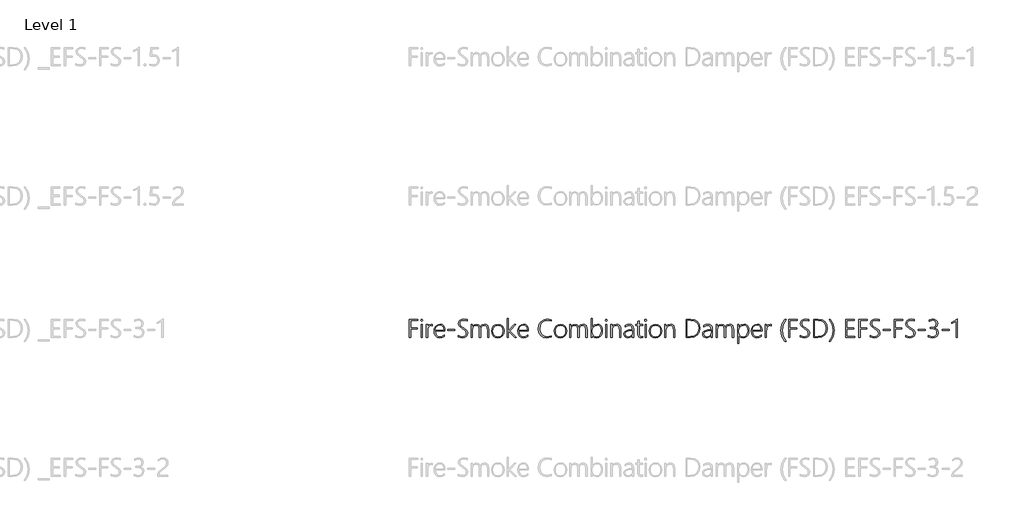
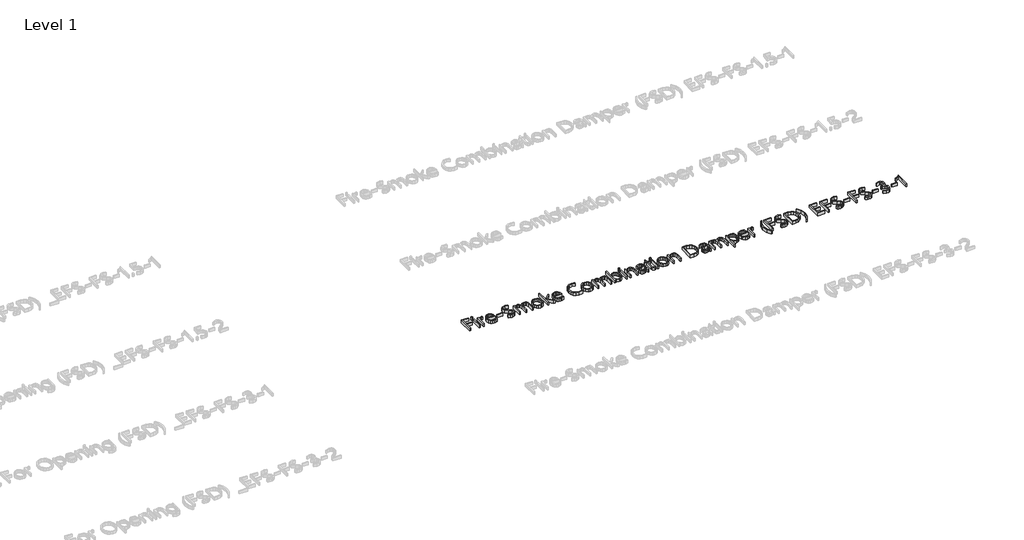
# One storey, part 8 of 13: 1 proxy.
"""IFC4 building model written with IfcOpenShell, lengths in millimetres."""

from ifc_helpers import new_model, si_unit, origin, origin_with_axes, place, context, project, spatial, polyline, outline, extrude, element, save

model = new_model("IFC4")

# Units and contexts
model_context = context("Model", 3, world=origin())
ifc_project = project(units=[si_unit("LENGTHUNIT", "METRE", prefix="MILLI")], contexts=[model_context])

# Site, building, storey
site = spatial("IfcSite", under=ifc_project)
building = spatial("IfcBuilding", under=site)
storey = spatial("IfcBuildingStorey", under=building, Name="Level 1", Elevation=0.0)

# Proxy
placement = place(None, origin())
element("IfcBuildingElementProxy", 1, Name="24\" Arial", ObjectType="24\" Arial", at=placement, inside=storey, context=model_context, shape_type="SweptSolid", body=[
    extrude(outline(polyline([(-11432.1552252, 4818.5856578), (-11432.1552252, 4777.7920223), (-11395.1999406, 4777.7920223), (-11395.1999406, 4771.5137896), (-11432.1552252, 4771.5137896), (-11432.1552252, 4724.9179959), (-11439.0583058, 4724.9179959), (-11439.0583058, 4824.9233999), (-11392.3137388, 4824.9233999), (-11392.3137388, 4818.5856578), (-11432.1552252, 4818.5856578)])), origin_with_axes(), (0.0, 0.0, 1.0), 20.0),
    extrude(outline(polyline([(-11370.6523481, 4814.3307418), (-11374.3419256, 4815.8631067), (-11375.9486771, 4819.7758441), (-11374.312171, 4823.4951763), (-11370.6523481, 4824.9233999), (-11366.8437519, 4823.524931), (-11365.2072458, 4819.7758441), (-11366.8139973, 4815.9374933), (-11370.6523481, 4814.3307418)])), origin_with_axes(), (0.0, 0.0, 1.0), 20.0),
    extrude(outline(polyline([(-11373.8063418, 4724.9179959), (-11373.8063418, 4796.329174), (-11367.3793358, 4796.329174), (-11367.3793358, 4724.9179959), (-11373.8063418, 4724.9179959)])), origin_with_axes(), (0.0, 0.0, 1.0), 20.0),
    extrude(outline(polyline([(-11311.5595982, 4789.634376), (-11319.0875266, 4791.9254847), (-11326.8348955, 4789.745956), (-11333.2358662, 4783.20737), (-11337.5316949, 4772.6593439), (-11338.9636378, 4758.4514949), (-11338.9636378, 4724.9179959), (-11345.2418706, 4724.9179959), (-11345.2418706, 4796.329174), (-11338.9636378, 4796.329174), (-11338.9636378, 4780.4996962), (-11330.9298803, 4793.1900576), (-11318.6709614, 4797.7276429), (-11311.5595982, 4796.4779473), (-11311.5595982, 4789.634376)])), origin_with_axes(), (0.0, 0.0, 1.0), 20.0),
    extrude(outline(polyline([(-11296.0871763, 4760.355793), (-11294.3874415, 4747.233989), (-11289.288237, 4737.3256881), (-11281.2284442, 4731.099526), (-11270.6469441, 4729.0241386), (-11258.7748357, 4731.2408606), (-11247.2002739, 4737.8910266), (-11247.2002739, 4731.0474553), (-11258.9384863, 4725.1337171), (-11271.956149, 4723.1624711), (-11284.4382279, 4725.6395463), (-11294.2721422, 4733.070772), (-11300.6545162, 4745.017267), (-11302.7819742, 4761.0401501), (-11300.5578136, 4775.4339657), (-11293.8853316, 4787.3730221), (-11283.6571681, 4795.4067796), (-11270.7659627, 4798.0846988), (-11259.0091537, 4795.7452388), (-11250.3393903, 4788.726859), (-11244.99471, 4777.6692844), (-11243.2131498, 4763.2122401), (-11243.2131498, 4760.355793), (-11296.0871763, 4760.355793)]), holes=[polyline([(-11249.9079478, 4766.2174605), (-11251.6188406, 4777.1671745), (-11255.8588793, 4785.37946), (-11262.4123426, 4790.5121384), (-11271.0635093, 4792.2230312), (-11280.2316631, 4790.5381738), (-11287.6814855, 4785.4836013), (-11293.0112886, 4777.2973511), (-11295.8193844, 4766.2174605), (-11249.9079478, 4766.2174605)])]), origin_with_axes(), (0.0, 0.0, 1.0), 20.0),
    extrude(outline(polyline([(-11226.5802963, 4763.6288053), (-11226.5802963, 4769.9070381), (-11188.4348253, 4769.9070381), (-11188.4348253, 4763.6288053), (-11226.5802963, 4763.6288053)])), origin_with_axes(), (0.0, 0.0, 1.0), 20.0),
    extrude(outline(polyline([(-11169.867919, 4728.4885548), (-11169.867919, 4736.3437844), (-11159.0595396, 4731.2334219), (-11148.1172643, 4729.5299678), (-11130.3239791, 4734.3650996), (-11125.7715165, 4740.1709772), (-11124.254029, 4747.9183462), (-11128.3452944, 4760.1623877), (-11146.0344383, 4772.6147119), (-11165.2708244, 4787.4474087), (-11169.3025805, 4801.2089378), (-11167.2457898, 4811.0019395), (-11161.0754177, 4819.1956283), (-11151.4758213, 4824.7411526), (-11139.1313577, 4826.5896607), (-11121.2785632, 4823.5844403), (-11121.2785632, 4816.3540585), (-11140.0239975, 4820.311428), (-11156.1658992, 4815.1489949), (-11160.6402558, 4809.2910467), (-11162.131708, 4802.0420682), (-11158.0553199, 4789.8426586), (-11140.4405627, 4777.4944758), (-11121.7843924, 4763.3758907), (-11117.1426658, 4749.1977964), (-11119.1399472, 4738.746473), (-11125.1317914, 4730.4226075), (-11134.7685811, 4724.9775052), (-11147.7006991, 4723.1624711), (-11159.5876848, 4724.7692226), (-11169.867919, 4728.4885548)])), origin_with_axes(), (0.0, 0.0, 1.0), 20.0),
    extrude(outline(polyline([(-11008.1216006, 4724.9179959), (-11008.1216006, 4767.8837214), (-11012.3467619, 4786.7779289), (-11017.7993029, 4790.8617557), (-11025.7066032, 4792.2230312), (-11033.5581134, 4790.4079971), (-11040.271508, 4784.9628948), (-11044.8797606, 4776.780364), (-11046.4158448, 4766.7530444), (-11046.4158448, 4724.9179959), (-11052.8428509, 4724.9179959), (-11052.8428509, 4768.3597959), (-11057.3729975, 4786.2572224), (-11063.0356807, 4790.731579), (-11070.9634373, 4792.2230312), (-11078.9488435, 4790.4005585), (-11085.4688329, 4784.9331401), (-11089.8092935, 4776.5720814), (-11091.2561137, 4766.0686873), (-11091.2561137, 4724.9179959), (-11097.6831198, 4724.9179959), (-11097.6831198, 4796.329174), (-11091.2561137, 4796.329174), (-11091.2561137, 4784.4868203), (-11081.7941327, 4794.6852292), (-11069.1484032, 4798.0846988), (-11055.8034393, 4793.5768682), (-11048.2903883, 4781.7493918), (-11038.7093885, 4793.7851508), (-11025.1412647, 4798.0846988), (-11014.8963642, 4796.2715243), (-11007.5785781, 4790.832001), (-11003.1879064, 4781.7661288), (-11001.7243492, 4769.0739077), (-11001.7243492, 4724.9179959), (-11008.1216006, 4724.9179959)])), origin_with_axes(), (0.0, 0.0, 1.0), 20.0),
    extrude(outline(polyline([(-10950.9331488, 4723.1624711), (-10964.9252765, 4725.736249), (-10975.6592692, 4733.4575826), (-10982.4879631, 4745.2924976), (-10984.7641944, 4760.2070197), (-10982.3838218, 4776.0625329), (-10975.242704, 4788.0425019), (-10964.2186034, 4795.5741495), (-10950.1892823, 4798.0846988), (-10936.5058592, 4795.5890269), (-10926.0433777, 4788.1020112), (-10919.4043698, 4776.2038675), (-10917.1913671, 4760.4748116), (-10919.4490018, 4745.3966389), (-10926.2219057, 4733.4873372), (-10936.9149857, 4725.7436876), (-10950.9331488, 4723.1624711)]), holes=[polyline([(-10950.4570742, 4792.2230312), (-10961.7935988, 4790.0955732), (-10970.5712227, 4783.7131992), (-10976.194853, 4773.544545), (-10978.0693964, 4760.0582464), (-10976.239485, 4747.4199556), (-10970.7497507, 4737.5339707), (-10962.0837067, 4731.1515966), (-10950.7248662, 4729.0241386), (-10939.3176743, 4731.1181226), (-10930.8636323, 4737.4000747), (-10925.6305319, 4747.3939203), (-10923.8861651, 4760.6235849), (-10925.6193739, 4774.1136028), (-10930.8190003, 4784.0553777), (-10939.1949364, 4790.1811179), (-10950.4570742, 4792.2230312)])]), origin_with_axes(), (0.0, 0.0, 1.0), 20.0),
    extrude(outline(polyline([(-10858.7532197, 4724.9179959), (-10892.9413212, 4760.2070197), (-10893.2091131, 4724.9179959), (-10899.6361192, 4724.9179959), (-10899.6361192, 4830.6362941), (-10893.2091131, 4830.6362941), (-10893.2091131, 4762.4981284), (-10860.5087445, 4796.329174), (-10852.207195, 4796.329174), (-10886.09775, 4761.7542619), (-10849.4697665, 4724.9179959), (-10858.7532197, 4724.9179959)])), origin_with_axes(), (0.0, 0.0, 1.0), 20.0),
    extrude(outline(polyline([(-10835.2470402, 4760.355793), (-10833.5473054, 4747.233989), (-10828.448101, 4737.3256881), (-10820.3883081, 4731.099526), (-10809.806808, 4729.0241386), (-10797.9346997, 4731.2408606), (-10786.3601379, 4737.8910266), (-10786.3601379, 4731.0474553), (-10798.0983503, 4725.1337171), (-10811.116013, 4723.1624711), (-10823.5980918, 4725.6395463), (-10833.4320061, 4733.070772), (-10839.8143802, 4745.017267), (-10841.9418382, 4761.0401501), (-10839.7176775, 4775.4339657), (-10833.0451956, 4787.3730221), (-10822.817032, 4795.4067796), (-10809.9258267, 4798.0846988), (-10798.1690176, 4795.7452388), (-10789.4992543, 4788.726859), (-10784.1545739, 4777.6692844), (-10782.3730138, 4763.2122401), (-10782.3730138, 4760.355793), (-10835.2470402, 4760.355793)]), holes=[polyline([(-10789.0678117, 4766.2174605), (-10790.7787045, 4777.1671745), (-10795.0187432, 4785.37946), (-10801.5722066, 4790.5121384), (-10810.2233732, 4792.2230312), (-10819.3915271, 4790.5381738), (-10826.8413495, 4785.4836013), (-10832.1711525, 4777.2973511), (-10834.9792483, 4766.2174605), (-10789.0678117, 4766.2174605)])]), origin_with_axes(), (0.0, 0.0, 1.0), 20.0),
    extrude(outline(polyline([(-10656.5703217, 4728.1910082), (-10681.8915352, 4723.1624711), (-10700.5030735, 4726.6065727), (-10715.3357703, 4736.9388775), (-10725.0432274, 4752.820426), (-10728.2790464, 4772.9122585), (-10724.7717161, 4794.8154058), (-10714.2497253, 4811.9057372), (-10698.3272642, 4822.9186798), (-10678.6185229, 4826.5896607), (-10656.5703217, 4822.9000832), (-10656.5703217, 4815.5804374), (-10678.7375415, 4820.311428), (-10695.8092763, 4817.1202409), (-10709.3550842, 4807.5466799), (-10718.1922175, 4792.6767898), (-10721.1379285, 4773.5966156), (-10718.3223941, 4755.3123786), (-10709.8757907, 4741.3425668), (-10697.1073232, 4732.4831176), (-10681.3261968, 4729.5299678), (-10656.5703217, 4734.8858062), (-10656.5703217, 4728.1910082)])), origin_with_axes(), (0.0, 0.0, 1.0), 20.0),
    extrude(outline(polyline([(-10606.2551958, 4723.1624711), (-10620.2473235, 4725.736249), (-10630.9813162, 4733.4575826), (-10637.8100101, 4745.2924976), (-10640.0862414, 4760.2070197), (-10637.7058688, 4776.0625329), (-10630.564751, 4788.0425019), (-10619.5406504, 4795.5741495), (-10605.5113293, 4798.0846988), (-10591.8279062, 4795.5890269), (-10581.3654247, 4788.1020112), (-10574.7264168, 4776.2038675), (-10572.5134141, 4760.4748116), (-10574.7710488, 4745.3966389), (-10581.5439527, 4733.4873372), (-10592.2370327, 4725.7436876), (-10606.2551958, 4723.1624711)]), holes=[polyline([(-10605.7791212, 4792.2230312), (-10617.1156458, 4790.0955732), (-10625.8932697, 4783.7131992), (-10631.5169, 4773.544545), (-10633.3914434, 4760.0582464), (-10631.561532, 4747.4199556), (-10626.0717977, 4737.5339707), (-10617.4057537, 4731.1515966), (-10606.0469132, 4729.0241386), (-10594.6397213, 4731.1181226), (-10586.1856793, 4737.4000747), (-10580.9525789, 4747.3939203), (-10579.2082121, 4760.6235849), (-10580.9414209, 4774.1136028), (-10586.1410473, 4784.0553777), (-10594.5169834, 4790.1811179), (-10605.7791212, 4792.2230312)])]), origin_with_axes(), (0.0, 0.0, 1.0), 20.0),
    extrude(outline(polyline([(-10465.396647, 4724.9179959), (-10465.396647, 4767.8837214), (-10469.6218083, 4786.7779289), (-10475.0743493, 4790.8617557), (-10482.9816496, 4792.2230312), (-10490.8331598, 4790.4079971), (-10497.5465544, 4784.9628948), (-10502.154807, 4776.780364), (-10503.6908912, 4766.7530444), (-10503.6908912, 4724.9179959), (-10510.1178972, 4724.9179959), (-10510.1178972, 4768.3597959), (-10514.6480439, 4786.2572224), (-10520.3107271, 4790.731579), (-10528.2384837, 4792.2230312), (-10536.2238899, 4790.4005585), (-10542.7438792, 4784.9331401), (-10547.0843399, 4776.5720814), (-10548.5311601, 4766.0686873), (-10548.5311601, 4724.9179959), (-10554.9581662, 4724.9179959), (-10554.9581662, 4796.329174), (-10548.5311601, 4796.329174), (-10548.5311601, 4784.4868203), (-10539.069179, 4794.6852292), (-10526.4234496, 4798.0846988), (-10513.0784857, 4793.5768682), (-10505.5654346, 4781.7493918), (-10495.9844349, 4793.7851508), (-10482.4163111, 4798.0846988), (-10472.1714105, 4796.2715243), (-10464.8536245, 4790.832001), (-10460.4629528, 4781.7661288), (-10458.9993956, 4769.0739077), (-10458.9993956, 4724.9179959), (-10465.396647, 4724.9179959)])), origin_with_axes(), (0.0, 0.0, 1.0), 20.0),
    extrude(outline(polyline([(-10430.1968871, 4737.6232346), (-10430.464679, 4724.9179959), (-10436.891685, 4724.9179959), (-10436.891685, 4830.6362941), (-10430.464679, 4830.6362941), (-10430.464679, 4781.6006185), (-10419.2025411, 4793.7851508), (-10403.4772046, 4798.0846988), (-10391.3707783, 4795.7378002), (-10382.2472564, 4788.6971043), (-10376.5232042, 4777.632091), (-10374.6151868, 4763.2122401), (-10376.8281894, 4746.9922324), (-10383.4671974, 4734.2163264), (-10393.6470096, 4725.9259349), (-10406.482425, 4723.1624711), (-10420.4299207, 4726.777662), (-10430.1968871, 4737.6232346)]), holes=[polyline([(-10430.464679, 4764.1941438), (-10430.464679, 4755.1784826), (-10428.7723828, 4745.195795), (-10423.6954944, 4736.7305949), (-10415.8663001, 4730.9507527), (-10405.9170865, 4729.0241386), (-10395.9976276, 4731.3710372), (-10388.1386786, 4738.4117331), (-10383.0171582, 4749.2684637), (-10381.3099847, 4763.0634668), (-10382.8795429, 4775.0769098), (-10387.5882175, 4784.338047), (-10394.9078632, 4790.2517852), (-10404.310335, 4792.2230312), (-10415.3902256, 4790.1290472), (-10423.6359851, 4783.8470951), (-10428.7575055, 4774.7458893), (-10430.464679, 4764.1941438)])]), origin_with_axes(), (0.0, 0.0, 1.0), 20.0),
    extrude(outline(polyline([(-10356.9111655, 4724.9179959), (-10356.9111655, 4796.329174), (-10350.4841595, 4796.329174), (-10350.4841595, 4724.9179959), (-10356.9111655, 4724.9179959)])), origin_with_axes(), (0.0, 0.0, 1.0), 20.0),
    extrude(outline(polyline([(-10353.7571718, 4814.3307418), (-10357.4467494, 4815.8631067), (-10359.0535009, 4819.7758441), (-10357.4169947, 4823.4951763), (-10353.7571718, 4824.9233999), (-10349.9485757, 4823.524931), (-10348.3120695, 4819.7758441), (-10349.918821, 4815.9374933), (-10353.7571718, 4814.3307418)])), origin_with_axes(), (0.0, 0.0, 1.0), 20.0),
    extrude(outline(polyline([(-10279.7870932, 4724.9179959), (-10279.7870932, 4766.4852525), (-10284.4288198, 4785.7885865), (-10290.230978, 4790.6144201), (-10298.3539995, 4792.2230312), (-10307.7527519, 4790.3298912), (-10315.299277, 4784.6504709), (-10320.2645854, 4776.1815515), (-10321.9196883, 4765.919914), (-10321.9196883, 4724.9179959), (-10328.3466943, 4724.9179959), (-10328.3466943, 4796.329174), (-10321.9196883, 4796.329174), (-10321.9196883, 4783.3561433), (-10311.6320154, 4794.4025599), (-10297.2233225, 4798.0846988), (-10287.0100363, 4796.1580847), (-10279.5193013, 4790.3782425), (-10274.9222067, 4781.0204027), (-10273.3898418, 4768.3597959), (-10273.3898418, 4724.9179959), (-10279.7870932, 4724.9179959)])), origin_with_axes(), (0.0, 0.0, 1.0), 20.0),
    extrude(outline(polyline([(-10209.4768374, 4724.9179959), (-10209.4768374, 4739.2002315), (-10219.6975623, 4727.5215284), (-10234.1732032, 4723.1624711), (-10243.2892864, 4724.594414), (-10250.2853502, 4728.8902427), (-10254.7373909, 4735.3656), (-10256.2214044, 4743.3361289), (-10254.6741622, 4751.7548373), (-10250.0324356, 4758.3250376), (-10231.4655293, 4765.919914), (-10209.4768374, 4769.1929263), (-10213.7987014, 4786.465505), (-10219.2010314, 4790.7836497), (-10226.7642934, 4792.2230312), (-10238.4132419, 4789.8500973), (-10249.7348891, 4782.7312955), (-10249.7348891, 4790.4675064), (-10238.9488257, 4795.8530995), (-10226.1394456, 4798.0846988), (-10216.3761986, 4796.373806), (-10209.1049042, 4791.2411275), (-10204.5859156, 4782.8503141), (-10203.079586, 4771.3650163), (-10203.079586, 4724.9179959), (-10209.4768374, 4724.9179959)]), holes=[polyline([(-10229.144666, 4760.4748116), (-10244.9146345, 4755.2826239), (-10249.4373425, 4743.6039208), (-10245.2270584, 4733.1451587), (-10233.4590914, 4729.0241386), (-10224.0268649, 4730.9358754), (-10216.3204086, 4736.6710856), (-10211.1877302, 4745.4189549), (-10209.4768374, 4756.3686689), (-10209.4768374, 4763.3312588), (-10229.144666, 4760.4748116)])]), origin_with_axes(), (0.0, 0.0, 1.0), 20.0),
    extrude(outline(polyline([(-10153.4488173, 4725.8998996), (-10162.8810437, 4723.519527), (-10174.7531521, 4728.2653948), (-10178.7105215, 4742.5029985), (-10178.7105215, 4790.4675064), (-10191.5347789, 4790.4675064), (-10191.5347789, 4796.329174), (-10178.7105215, 4796.329174), (-10178.7105215, 4814.8663256), (-10175.4970185, 4815.9970026), (-10172.2835155, 4817.0384156), (-10172.2835155, 4796.329174), (-10153.4488173, 4796.329174), (-10153.4488173, 4790.4675064), (-10172.2835155, 4790.4675064), (-10172.2835155, 4743.3361289), (-10169.9477749, 4732.6244522), (-10162.0479133, 4729.3216852), (-10153.4488173, 4731.8805857), (-10153.4488173, 4725.8998996)])), origin_with_axes(), (0.0, 0.0, 1.0), 20.0),
    extrude(outline(polyline([(-10136.6671904, 4814.3307418), (-10140.3567679, 4815.8631067), (-10141.9635194, 4819.7758441), (-10140.3270133, 4823.4951763), (-10136.6671904, 4824.9233999), (-10132.8585942, 4823.524931), (-10131.2220881, 4819.7758441), (-10132.8288396, 4815.9374933), (-10136.6671904, 4814.3307418)])), origin_with_axes(), (0.0, 0.0, 1.0), 20.0),
    extrude(outline(polyline([(-10139.8211841, 4724.9179959), (-10139.8211841, 4796.329174), (-10133.3941781, 4796.329174), (-10133.3941781, 4724.9179959), (-10139.8211841, 4724.9179959)])), origin_with_axes(), (0.0, 0.0, 1.0), 20.0),
    extrude(outline(polyline([(-10082.573223, 4723.1624711), (-10096.5653507, 4725.736249), (-10107.2993434, 4733.4575826), (-10114.1280373, 4745.2924976), (-10116.4042686, 4760.2070197), (-10114.023896, 4776.0625329), (-10106.8827782, 4788.0425019), (-10095.8586776, 4795.5741495), (-10081.8293565, 4798.0846988), (-10068.1459334, 4795.5890269), (-10057.6834519, 4788.1020112), (-10051.044444, 4776.2038675), (-10048.8314413, 4760.4748116), (-10051.089076, 4745.3966389), (-10057.8619799, 4733.4873372), (-10068.5550599, 4725.7436876), (-10082.573223, 4723.1624711)]), holes=[polyline([(-10082.0971485, 4792.2230312), (-10093.433673, 4790.0955732), (-10102.211297, 4783.7131992), (-10107.8349272, 4773.544545), (-10109.7094707, 4760.0582464), (-10107.8795592, 4747.4199556), (-10102.3898249, 4737.5339707), (-10093.7237809, 4731.1515966), (-10082.3649404, 4729.0241386), (-10070.9577485, 4731.1181226), (-10062.5037065, 4737.4000747), (-10057.2706061, 4747.3939203), (-10055.5262393, 4760.6235849), (-10057.2594481, 4774.1136028), (-10062.4590745, 4784.0553777), (-10070.8350106, 4790.1811179), (-10082.0971485, 4792.2230312)])]), origin_with_axes(), (0.0, 0.0, 1.0), 20.0),
    extrude(outline(polyline([(-9982.7165923, 4724.9179959), (-9982.7165923, 4766.4852525), (-9987.3583188, 4785.7885865), (-9993.1604771, 4790.6144201), (-10001.2834986, 4792.2230312), (-10010.682251, 4790.3298912), (-10018.228776, 4784.6504709), (-10023.1940845, 4776.1815515), (-10024.8491873, 4765.919914), (-10024.8491873, 4724.9179959), (-10031.2761934, 4724.9179959), (-10031.2761934, 4796.329174), (-10024.8491873, 4796.329174), (-10024.8491873, 4783.3561433), (-10014.5615145, 4794.4025599), (-10000.1528216, 4798.0846988), (-9989.9395354, 4796.1580847), (-9982.4488003, 4790.3782425), (-9977.8517058, 4781.0204027), (-9976.3193409, 4768.3597959), (-9976.3193409, 4724.9179959), (-9982.7165923, 4724.9179959)])), origin_with_axes(), (0.0, 0.0, 1.0), 20.0),
    extrude(outline(polyline([(-9913.7155414, 4724.9179959), (-9913.7155414, 4824.9233999), (-9888.6621198, 4824.9233999), (-9866.7626918, 4821.8214768), (-9850.8141954, 4812.5157077), (-9841.0844223, 4797.259007), (-9837.8411647, 4776.3042895), (-9841.3187403, 4755.5987671), (-9851.7514671, 4739.1853542), (-9868.3062147, 4728.4848354), (-9890.1498526, 4724.9179959), (-9913.7155414, 4724.9179959)]), holes=[polyline([(-9906.8124609, 4818.5856578), (-9906.8124609, 4731.1962286), (-9891.1020017, 4731.1962286), (-9871.4490504, 4734.0824304), (-9856.9436548, 4742.7410357), (-9847.9949416, 4756.8373048), (-9845.0120371, 4776.0364975), (-9847.8052556, 4794.6517552), (-9856.184911, 4807.9483678), (-9870.1510034, 4815.9263353), (-9889.7035328, 4818.5856578), (-9906.8124609, 4818.5856578)])]), origin_with_axes(), (0.0, 0.0, 1.0), 20.0),
    extrude(outline(polyline([(-9775.2968745, 4724.9179959), (-9775.2968745, 4739.2002315), (-9785.5175994, 4727.5215284), (-9799.9932403, 4723.1624711), (-9809.1093235, 4724.594414), (-9816.1053873, 4728.8902427), (-9820.557428, 4735.3656), (-9822.0414415, 4743.3361289), (-9820.4941993, 4751.7548373), (-9815.8524727, 4758.3250376), (-9797.2855664, 4765.919914), (-9775.2968745, 4769.1929263), (-9779.6187385, 4786.465505), (-9785.0210685, 4790.7836497), (-9792.5843305, 4792.2230312), (-9804.233279, 4789.8500973), (-9815.5549262, 4782.7312955), (-9815.5549262, 4790.4675064), (-9804.7688628, 4795.8530995), (-9791.9594827, 4798.0846988), (-9782.1962357, 4796.373806), (-9774.9249413, 4791.2411275), (-9770.4059527, 4782.8503141), (-9768.8996231, 4771.3650163), (-9768.8996231, 4724.9179959), (-9775.2968745, 4724.9179959)]), holes=[polyline([(-9794.9647032, 4760.4748116), (-9810.7346716, 4755.2826239), (-9815.2573796, 4743.6039208), (-9811.0470956, 4733.1451587), (-9799.2791285, 4729.0241386), (-9789.8469021, 4730.9358754), (-9782.1404457, 4736.6710856), (-9777.0077673, 4745.4189549), (-9775.2968745, 4756.3686689), (-9775.2968745, 4763.3312588), (-9794.9647032, 4760.4748116)])]), origin_with_axes(), (0.0, 0.0, 1.0), 20.0),
    extrude(outline(polyline([(-9657.9742598, 4724.9179959), (-9657.9742598, 4767.8837214), (-9662.1994212, 4786.7779289), (-9667.6519622, 4790.8617557), (-9675.5592624, 4792.2230312), (-9683.4107727, 4790.4079971), (-9690.1241673, 4784.9628948), (-9694.7324199, 4776.780364), (-9696.2685041, 4766.7530444), (-9696.2685041, 4724.9179959), (-9702.6955101, 4724.9179959), (-9702.6955101, 4768.3597959), (-9707.2256567, 4786.2572224), (-9712.88834, 4790.731579), (-9720.8160965, 4792.2230312), (-9728.8015028, 4790.4005585), (-9735.3214921, 4784.9331401), (-9739.6619528, 4776.5720814), (-9741.108773, 4766.0686873), (-9741.108773, 4724.9179959), (-9747.535779, 4724.9179959), (-9747.535779, 4796.329174), (-9741.108773, 4796.329174), (-9741.108773, 4784.4868203), (-9731.6467919, 4794.6852292), (-9719.0010624, 4798.0846988), (-9705.6560985, 4793.5768682), (-9698.1430475, 4781.7493918), (-9688.5620478, 4793.7851508), (-9674.9939239, 4798.0846988), (-9664.7490234, 4796.2715243), (-9657.4312373, 4790.832001), (-9653.0405657, 4781.7661288), (-9651.5770084, 4769.0739077), (-9651.5770084, 4724.9179959), (-9657.9742598, 4724.9179959)])), origin_with_axes(), (0.0, 0.0, 1.0), 20.0),
    extrude(outline(polyline([(-9622.7744999, 4737.6232346), (-9623.0422919, 4692.0688539), (-9629.4692979, 4692.0688539), (-9629.4692979, 4796.329174), (-9623.0422919, 4796.329174), (-9623.0422919, 4781.6006185), (-9611.780154, 4793.7851508), (-9596.0548175, 4798.0846988), (-9583.9483912, 4795.7378002), (-9574.8248693, 4788.6971043), (-9569.1008171, 4777.632091), (-9567.1927996, 4763.2122401), (-9569.379767, 4746.9922324), (-9575.940669, 4734.2163264), (-9586.0944459, 4725.9259349), (-9599.0600379, 4723.1624711), (-9613.0075336, 4726.777662), (-9622.7744999, 4737.6232346)]), holes=[polyline([(-9623.0422919, 4764.1941438), (-9623.0422919, 4755.1784826), (-9621.3499957, 4745.195795), (-9616.2731073, 4736.7305949), (-9608.443913, 4730.9507527), (-9598.4946994, 4729.0241386), (-9588.5752404, 4731.3710372), (-9580.7162915, 4738.4117331), (-9575.5947711, 4749.2684637), (-9573.8875976, 4763.0634668), (-9575.4571558, 4775.0769098), (-9580.1658303, 4784.338047), (-9587.4854761, 4790.2517852), (-9596.8879479, 4792.2230312), (-9607.9678385, 4790.1290472), (-9616.213598, 4783.8470951), (-9621.3351184, 4774.7458893), (-9623.0422919, 4764.1941438)])]), origin_with_axes(), (0.0, 0.0, 1.0), 20.0),
    extrude(outline(polyline([(-9547.9415362, 4760.355793), (-9546.2418014, 4747.233989), (-9541.142597, 4737.3256881), (-9533.0828041, 4731.099526), (-9522.501304, 4729.0241386), (-9510.6291957, 4731.2408606), (-9499.0546339, 4737.8910266), (-9499.0546339, 4731.0474553), (-9510.7928463, 4725.1337171), (-9523.8105089, 4723.1624711), (-9536.2925878, 4725.6395463), (-9546.1265021, 4733.070772), (-9552.5088761, 4745.017267), (-9554.6363342, 4761.0401501), (-9552.4121735, 4775.4339657), (-9545.7396916, 4787.3730221), (-9535.511528, 4795.4067796), (-9522.6203226, 4798.0846988), (-9510.8635136, 4795.7452388), (-9502.1937502, 4788.726859), (-9496.8490699, 4777.6692844), (-9495.0675098, 4763.2122401), (-9495.0675098, 4760.355793), (-9547.9415362, 4760.355793)]), holes=[polyline([(-9501.7623077, 4766.2174605), (-9503.4732005, 4777.1671745), (-9507.7132392, 4785.37946), (-9514.2667025, 4790.5121384), (-9522.9178692, 4792.2230312), (-9532.0860231, 4790.5381738), (-9539.5358455, 4785.4836013), (-9544.8656485, 4777.2973511), (-9547.6737443, 4766.2174605), (-9501.7623077, 4766.2174605)])]), origin_with_axes(), (0.0, 0.0, 1.0), 20.0),
    extrude(outline(polyline([(-9443.4431789, 4789.634376), (-9450.9711073, 4791.9254847), (-9458.7184762, 4789.745956), (-9465.1194469, 4783.20737), (-9469.4152756, 4772.6593439), (-9470.8472185, 4758.4514949), (-9470.8472185, 4724.9179959), (-9477.1254513, 4724.9179959), (-9477.1254513, 4796.329174), (-9470.8472185, 4796.329174), (-9470.8472185, 4780.4996962), (-9462.813461, 4793.1900576), (-9450.5545421, 4797.7276429), (-9443.4431789, 4796.4779473), (-9443.4431789, 4789.634376)])), origin_with_axes(), (0.0, 0.0, 1.0), 20.0),
    extrude(outline(polyline([(-9369.3540816, 4702.1854375), (-9385.1984368, 4729.7159344), (-9390.4798885, 4762.9146936), (-9385.1314888, 4797.2515684), (-9369.0862897, 4824.9233999), (-9362.2427185, 4824.9233999), (-9378.6226575, 4796.9019511), (-9384.0826371, 4763.0634668), (-9378.6970441, 4730.5118715), (-9362.5402651, 4702.1854375), (-9369.3540816, 4702.1854375)])), origin_with_axes(), (0.0, 0.0, 1.0), 20.0),
    extrude(outline(polyline([(-9341.2359302, 4818.5856578), (-9341.2359302, 4777.7920223), (-9304.2806456, 4777.7920223), (-9304.2806456, 4771.5137896), (-9341.2359302, 4771.5137896), (-9341.2359302, 4724.9179959), (-9348.1390108, 4724.9179959), (-9348.1390108, 4824.9233999), (-9301.3944438, 4824.9233999), (-9301.3944438, 4818.5856578), (-9341.2359302, 4818.5856578)])), origin_with_axes(), (0.0, 0.0, 1.0), 20.0),
    extrude(outline(polyline([(-9284.6128169, 4728.4885548), (-9284.6128169, 4736.3437844), (-9273.8044376, 4731.2334219), (-9262.8621623, 4729.5299678), (-9245.0688771, 4734.3650996), (-9240.5164145, 4740.1709772), (-9238.9989269, 4747.9183462), (-9243.0901923, 4760.1623877), (-9260.7793362, 4772.6147119), (-9280.0157224, 4787.4474087), (-9284.0474784, 4801.2089378), (-9281.9906877, 4811.0019395), (-9275.8203156, 4819.1956283), (-9266.2207192, 4824.7411526), (-9253.8762557, 4826.5896607), (-9236.0234612, 4823.5844403), (-9236.0234612, 4816.3540585), (-9254.7688954, 4820.311428), (-9270.9107971, 4815.1489949), (-9275.3851538, 4809.2910467), (-9276.876606, 4802.0420682), (-9272.8002179, 4789.8426586), (-9255.1854606, 4777.4944758), (-9236.5292903, 4763.3758907), (-9231.8875638, 4749.1977964), (-9233.8848452, 4738.746473), (-9239.8766893, 4730.4226075), (-9249.513479, 4724.9775052), (-9262.4455971, 4723.1624711), (-9274.3325828, 4724.7692226), (-9284.6128169, 4728.4885548)])), origin_with_axes(), (0.0, 0.0, 1.0), 20.0),
    extrude(outline(polyline([(-9211.0295488, 4724.9179959), (-9211.0295488, 4824.9233999), (-9185.9761272, 4824.9233999), (-9164.0766992, 4821.8214768), (-9148.1282028, 4812.5157077), (-9138.3984298, 4797.259007), (-9135.1551721, 4776.3042895), (-9138.6327477, 4755.5987671), (-9149.0654745, 4739.1853542), (-9165.6202221, 4728.4848354), (-9187.4638601, 4724.9179959), (-9211.0295488, 4724.9179959)]), holes=[polyline([(-9204.1264683, 4818.5856578), (-9204.1264683, 4731.1962286), (-9188.4160091, 4731.1962286), (-9168.7630578, 4734.0824304), (-9154.2576622, 4742.7410357), (-9145.308949, 4756.8373048), (-9142.3260446, 4776.0364975), (-9145.119263, 4794.6517552), (-9153.4989185, 4807.9483678), (-9167.4650109, 4815.9263353), (-9187.0175402, 4818.5856578), (-9204.1264683, 4818.5856578)])]), origin_with_axes(), (0.0, 0.0, 1.0), 20.0),
    extrude(outline(polyline([(-9118.0164893, 4702.1854375), (-9124.8600606, 4702.1854375), (-9108.6809655, 4730.5118715), (-9103.2879339, 4763.0634668), (-9108.7479135, 4796.9019511), (-9125.1278525, 4824.9233999), (-9118.2842813, 4824.9233999), (-9102.2390822, 4797.1771817), (-9096.8906825, 4762.9146936), (-9102.1721342, 4729.6415478), (-9118.0164893, 4702.1854375)])), origin_with_axes(), (0.0, 0.0, 1.0), 20.0),
    extrude(outline(polyline([(-9033.9298271, 4724.9179959), (-9033.9298271, 4824.9233999), (-8987.1852601, 4824.9233999), (-8987.1852601, 4818.5856578), (-9027.0267466, 4818.5856578), (-9027.0267466, 4778.4763795), (-8990.0714619, 4778.4763795), (-8990.0714619, 4772.1981467), (-9027.0267466, 4772.1981467), (-9027.0267466, 4731.1962286), (-8984.8941515, 4731.1962286), (-8984.8941515, 4724.9179959), (-9033.9298271, 4724.9179959)])), origin_with_axes(), (0.0, 0.0, 1.0), 20.0),
    extrude(outline(polyline([(-8954.6634194, 4818.5856578), (-8954.6634194, 4777.7920223), (-8917.7081348, 4777.7920223), (-8917.7081348, 4771.5137896), (-8954.6634194, 4771.5137896), (-8954.6634194, 4724.9179959), (-8961.5665, 4724.9179959), (-8961.5665, 4824.9233999), (-8914.821933, 4824.9233999), (-8914.821933, 4818.5856578), (-8954.6634194, 4818.5856578)])), origin_with_axes(), (0.0, 0.0, 1.0), 20.0),
    extrude(outline(polyline([(-8898.0403061, 4728.4885548), (-8898.0403061, 4736.3437844), (-8887.2319268, 4731.2334219), (-8876.2896515, 4729.5299678), (-8858.4963662, 4734.3650996), (-8853.9439036, 4740.1709772), (-8852.4264161, 4747.9183462), (-8856.5176815, 4760.1623877), (-8874.2068254, 4772.6147119), (-8893.4432115, 4787.4474087), (-8897.4749676, 4801.2089378), (-8895.4181769, 4811.0019395), (-8889.2478048, 4819.1956283), (-8879.6482084, 4824.7411526), (-8867.3037449, 4826.5896607), (-8849.4509503, 4823.5844403), (-8849.4509503, 4816.3540585), (-8868.1963846, 4820.311428), (-8884.3382863, 4815.1489949), (-8888.8126429, 4809.2910467), (-8890.3040952, 4802.0420682), (-8886.2277071, 4789.8426586), (-8868.6129498, 4777.4944758), (-8849.9567795, 4763.3758907), (-8845.315053, 4749.1977964), (-8847.3123343, 4738.746473), (-8853.3041785, 4730.4226075), (-8862.9409682, 4724.9775052), (-8875.8730862, 4723.1624711), (-8887.7600719, 4724.7692226), (-8898.0403061, 4728.4885548)])), origin_with_axes(), (0.0, 0.0, 1.0), 20.0),
    extrude(outline(polyline([(-8827.1647118, 4763.6288053), (-8827.1647118, 4769.9070381), (-8789.0192409, 4769.9070381), (-8789.0192409, 4763.6288053), (-8827.1647118, 4763.6288053)])), origin_with_axes(), (0.0, 0.0, 1.0), 20.0),
    extrude(outline(polyline([(-8760.425015, 4818.5856578), (-8760.425015, 4777.7920223), (-8723.4697303, 4777.7920223), (-8723.4697303, 4771.5137896), (-8760.425015, 4771.5137896), (-8760.425015, 4724.9179959), (-8767.3280955, 4724.9179959), (-8767.3280955, 4824.9233999), (-8720.5835285, 4824.9233999), (-8720.5835285, 4818.5856578), (-8760.425015, 4818.5856578)])), origin_with_axes(), (0.0, 0.0, 1.0), 20.0),
    extrude(outline(polyline([(-8703.8019017, 4728.4885548), (-8703.8019017, 4736.3437844), (-8692.9935223, 4731.2334219), (-8682.051247, 4729.5299678), (-8664.2579618, 4734.3650996), (-8659.7054992, 4740.1709772), (-8658.1880117, 4747.9183462), (-8662.2792771, 4760.1623877), (-8679.968421, 4772.6147119), (-8699.2048071, 4787.4474087), (-8703.2365632, 4801.2089378), (-8701.1797725, 4811.0019395), (-8695.0094004, 4819.1956283), (-8685.409804, 4824.7411526), (-8673.0653404, 4826.5896607), (-8655.2125459, 4823.5844403), (-8655.2125459, 4816.3540585), (-8673.9579801, 4820.311428), (-8690.0998819, 4815.1489949), (-8694.5742385, 4809.2910467), (-8696.0656907, 4802.0420682), (-8691.9893026, 4789.8426586), (-8674.3745454, 4777.4944758), (-8655.7183751, 4763.3758907), (-8651.0766485, 4749.1977964), (-8653.0739299, 4738.746473), (-8659.065774, 4730.4226075), (-8668.7025638, 4724.9775052), (-8681.6346818, 4723.1624711), (-8693.5216675, 4724.7692226), (-8703.8019017, 4728.4885548)])), origin_with_axes(), (0.0, 0.0, 1.0), 20.0),
    extrude(outline(polyline([(-8632.9263074, 4763.6288053), (-8632.9263074, 4769.9070381), (-8594.7808364, 4769.9070381), (-8594.7808364, 4763.6288053), (-8632.9263074, 4763.6288053)])), origin_with_axes(), (0.0, 0.0, 1.0), 20.0),
    extrude(outline(polyline([(-8577.8801909, 4728.4885548), (-8577.8801909, 4735.8082005), (-8556.3378189, 4729.0241386), (-8545.5889488, 4730.5676615), (-8537.4436113, 4735.1982301), (-8532.3109329, 4742.3207512), (-8530.6000401, 4751.3401318), (-8532.5638475, 4761.0922208), (-8538.4552697, 4768.1515133), (-8547.9693214, 4772.436184), (-8560.8010175, 4773.8644075), (-8568.4777192, 4773.8644075), (-8568.4777192, 4779.7260751), (-8561.6341479, 4779.7260751), (-8549.8401455, 4781.14686), (-8541.2373302, 4785.4092147), (-8535.9819138, 4792.2676632), (-8534.2301083, 4801.4767297), (-8539.3181548, 4815.6101921), (-8545.5815102, 4819.4485429), (-8554.1954835, 4820.7279932), (-8573.9228215, 4814.1819685), (-8573.9228215, 4821.0255397), (-8553.2135798, 4826.5896607), (-8542.5762898, 4824.9866285), (-8534.4086363, 4820.177532), (-8529.2090099, 4812.720271), (-8527.4758011, 4803.1727452), (-8532.3406876, 4786.577085), (-8546.9353471, 4777.3754571), (-8537.5105593, 4774.6157126), (-8530.1834749, 4769.3119449), (-8525.4748003, 4761.7021913), (-8523.9052422, 4752.3220355), (-8526.1740348, 4740.4759624), (-8532.9804127, 4731.1813513), (-8543.3945428, 4725.1671911), (-8556.4865922, 4723.1624711), (-8577.8801909, 4728.4885548)])), origin_with_axes(), (0.0, 0.0, 1.0), 20.0),
    extrude(outline(polyline([(-8501.5297397, 4763.6288053), (-8501.5297397, 4769.9070381), (-8463.3842687, 4769.9070381), (-8463.3842687, 4763.6288053), (-8501.5297397, 4763.6288053)])), origin_with_axes(), (0.0, 0.0, 1.0), 20.0),
    extrude(outline(polyline([(-8417.829888, 4827.1549992), (-8417.829888, 4724.9179959), (-8424.256894, 4724.9179959), (-8424.256894, 4817.0384156), (-8435.2363627, 4809.0790447), (-8448.7152225, 4803.1727452), (-8448.7152225, 4809.0344128), (-8440.5773237, 4812.3371797), (-8433.3618192, 4816.4135678), (-8426.6670213, 4821.3230863), (-8420.0614873, 4827.1549992), (-8417.829888, 4827.1549992)])), origin_with_axes(), (0.0, 0.0, 1.0), 20.0),
])

save(model, "model.ifc")
